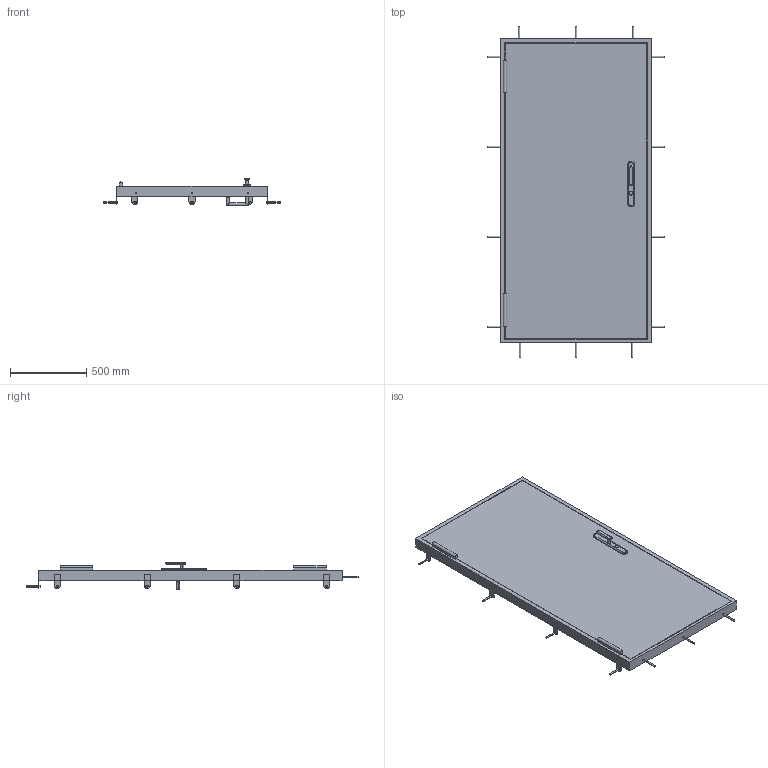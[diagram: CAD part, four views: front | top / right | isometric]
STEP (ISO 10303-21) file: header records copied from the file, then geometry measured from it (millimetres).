
FILE_DESCRIPTION((''),'2;1');
FILE_NAME('51810624','2022-05-10T07:36:14',('ka'),('HUBER SE'),'CREO PARAMETRIC BY PTC INC, 2021304','CREO PARAMETRIC BY PTC INC, 2021304','');
FILE_SCHEMA(('AUTOMOTIVE_DESIGN { 1 0 10303 214 1 1 1 1 }'));
Length unit declared in the file: millimetre
Products named in the file (1): 51810624
Bounding box: 1160 x 2182 x 181.5 mm (x, y, z)
Volume: 115739619 mm3; surface area: 4816295.6 mm2
Topology: 1 solids, 1 shells, 256 faces, 596 edges, 382 vertices
Faces by surface type: plane 137, cylinder 111, torus 8
Entity records: 9557 total; most frequent: CARTESIAN_POINT 1512, DIRECTION 1318, ORIENTED_EDGE 1192, EDGE_CURVE 596, AXIS2_PLACEMENT_3D 478, VERTEX_POINT 382, VECTOR 362, LINE 362
